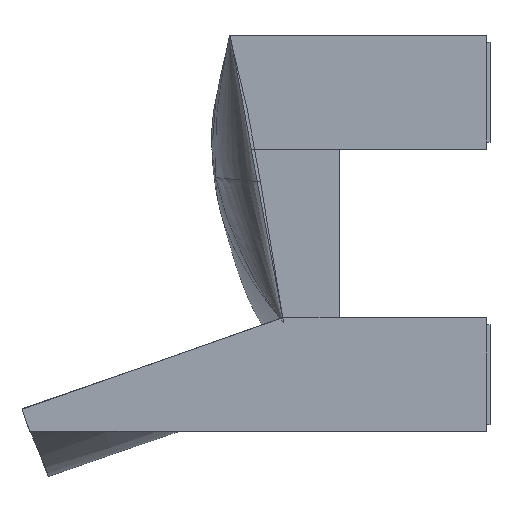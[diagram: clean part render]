
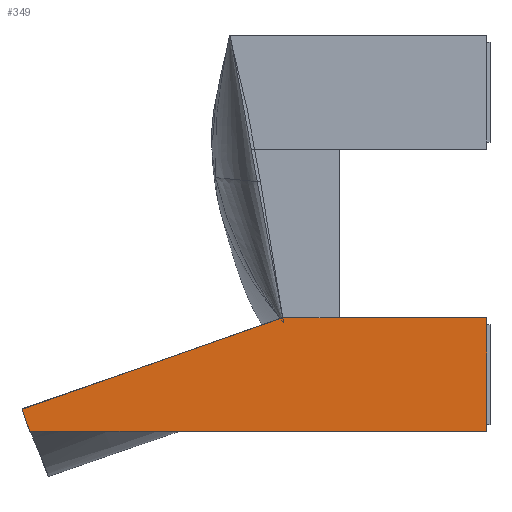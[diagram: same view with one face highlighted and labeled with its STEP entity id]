
A CAD part, left-side view. The second image highlights one B-rep face of the part: STEP entity #349.
In plain terms, the highlighted planar face has unit normal (-1, 0, 0).
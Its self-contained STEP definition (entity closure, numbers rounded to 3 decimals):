
#349=ADVANCED_FACE('',(#528),#2533,.T.);
#528=FACE_OUTER_BOUND('',#707,.T.);
#707=EDGE_LOOP('',(#1004,#1005,#1006,#1007,#1008,#1009));
#1004=ORIENTED_EDGE('',*,*,#1801,.F.);
#1005=ORIENTED_EDGE('',*,*,#1802,.T.);
#1006=ORIENTED_EDGE('',*,*,#1803,.T.);
#1007=ORIENTED_EDGE('',*,*,#1807,.T.);
#1008=ORIENTED_EDGE('',*,*,#1795,.F.);
#1009=ORIENTED_EDGE('',*,*,#1791,.F.);
#1791=EDGE_CURVE('',#2245,#2246,#2727,.T.);
#1795=EDGE_CURVE('',#2246,#2249,#2731,.T.);
#1801=EDGE_CURVE('',#2255,#2245,#2737,.T.);
#1802=EDGE_CURVE('',#2255,#2256,#2738,.T.);
#1803=EDGE_CURVE('',#2256,#2257,#2739,.T.);
#1807=EDGE_CURVE('',#2257,#2249,#2743,.T.);
#2245=VERTEX_POINT('',#3917);
#2246=VERTEX_POINT('',#3918);
#2249=VERTEX_POINT('',#3921);
#2255=VERTEX_POINT('',#3927);
#2256=VERTEX_POINT('',#3928);
#2257=VERTEX_POINT('',#3929);
#2533=PLANE('',#3324);
#2727=B_SPLINE_CURVE_WITH_KNOTS('',1,(#3930,#3931),.UNSPECIFIED.,.F.,.F.,
(2,2),(0.,177.034),.UNSPECIFIED.);
#2731=B_SPLINE_CURVE_WITH_KNOTS('',1,(#3938,#3939),.UNSPECIFIED.,.F.,.F.,
(2,2),(0.,712.016),.UNSPECIFIED.);
#2737=B_SPLINE_CURVE_WITH_KNOTS('',1,(#3950,#3951),.UNSPECIFIED.,.F.,.F.,
(2,2),(0.,230.),.UNSPECIFIED.);
#2738=B_SPLINE_CURVE_WITH_KNOTS('',1,(#3952,#3953),.UNSPECIFIED.,.F.,.F.,
(2,2),(0.,88.02),.UNSPECIFIED.);
#2739=B_SPLINE_CURVE_WITH_KNOTS('',1,(#3954,#3955),.UNSPECIFIED.,.F.,.F.,
(2,2),(0.,430.373),.UNSPECIFIED.);
#2743=B_SPLINE_CURVE_WITH_KNOTS('',1,(#3964,#3965),.UNSPECIFIED.,.F.,.F.,
(2,2),(-36.779,0.),.UNSPECIFIED.);
#3324=AXIS2_PLACEMENT_3D('',#3902,#3472,$);
#3472=DIRECTION('',(-1.,0.,0.));
#3902=CARTESIAN_POINT('',(-322.506,-447.648,-292.242));
#3917=CARTESIAN_POINT('',(-322.506,-374.03,-96.304));
#3918=CARTESIAN_POINT('',(-322.506,-374.03,-273.338));
#3921=CARTESIAN_POINT('',(-322.506,337.985,-273.338));
#3927=CARTESIAN_POINT('',(-322.506,-144.03,-96.304));
#3928=CARTESIAN_POINT('',(-322.506,-56.01,-96.304));
#3929=CARTESIAN_POINT('',(-322.506,350.148,-238.629));
#3930=CARTESIAN_POINT('',(-322.506,-374.03,-96.304));
#3931=CARTESIAN_POINT('',(-322.506,-374.03,-273.338));
#3938=CARTESIAN_POINT('',(-322.506,-374.03,-273.338));
#3939=CARTESIAN_POINT('',(-322.506,337.985,-273.338));
#3950=CARTESIAN_POINT('',(-322.506,-144.03,-96.304));
#3951=CARTESIAN_POINT('',(-322.506,-374.03,-96.304));
#3952=CARTESIAN_POINT('',(-322.506,-144.03,-96.304));
#3953=CARTESIAN_POINT('',(-322.506,-56.01,-96.304));
#3954=CARTESIAN_POINT('',(-322.506,-56.01,-96.304));
#3955=CARTESIAN_POINT('',(-322.506,350.148,-238.629));
#3964=CARTESIAN_POINT('',(-322.506,350.148,-238.629));
#3965=CARTESIAN_POINT('',(-322.506,337.985,-273.338));
